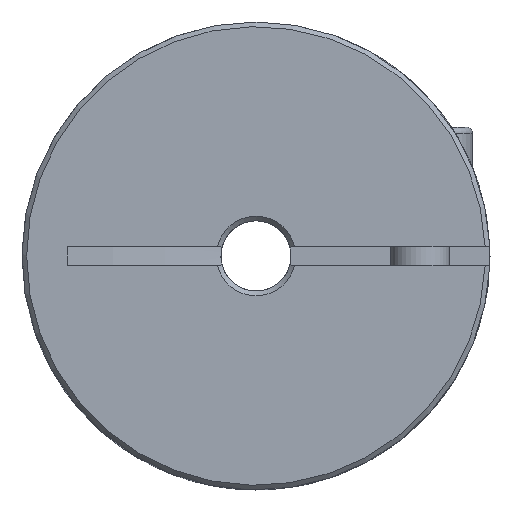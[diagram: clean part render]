
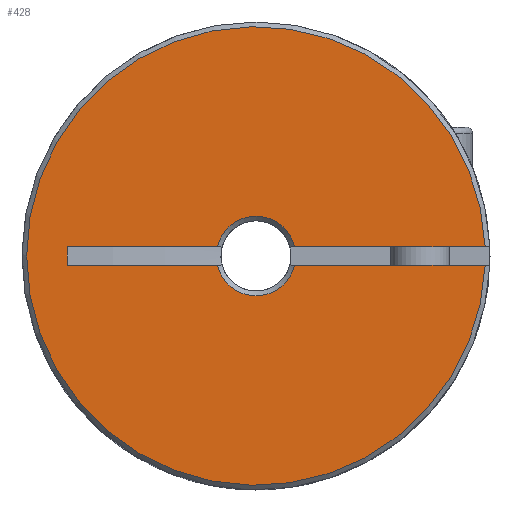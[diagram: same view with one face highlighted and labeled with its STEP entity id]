
A CAD part, left-side view. The second image highlights one B-rep face of the part: STEP entity #428.
In plain terms, the highlighted planar face has unit normal (-1, 0, 0).
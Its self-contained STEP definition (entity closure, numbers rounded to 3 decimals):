
#428 = ADVANCED_FACE( 'NONE', ( #932 ), #933, .F. );
#932 = FACE_OUTER_BOUND( '', #1469, .T. );
#933 = PLANE( '', #1470 );
#1469 = EDGE_LOOP( '', ( #2247, #2248, #2249, #2250, #2251, #2252, #2253, #2254 ) );
#1470 = AXIS2_PLACEMENT_3D( '', #2255, #2256, #2257 );
#2247 = ORIENTED_EDGE( '', *, *, #2767, .T. );
#2248 = ORIENTED_EDGE( '', *, *, #2768, .T. );
#2249 = ORIENTED_EDGE( '', *, *, #2640, .T. );
#2250 = ORIENTED_EDGE( '', *, *, #2544, .T. );
#2251 = ORIENTED_EDGE( '', *, *, #2769, .F. );
#2252 = ORIENTED_EDGE( '', *, *, #2636, .T. );
#2253 = ORIENTED_EDGE( '', *, *, #2550, .F. );
#2254 = ORIENTED_EDGE( '', *, *, #2736, .T. );
#2255 = CARTESIAN_POINT( '', ( 0., 1.5, 0. ) );
#2256 = DIRECTION( '', ( 1., 0., 0. ) );
#2257 = DIRECTION( '', ( 0., 1., 0. ) );
#2544 = EDGE_CURVE( 'NONE', #2895, #2893, #2896, .F. );
#2550 = EDGE_CURVE( 'NONE', #2904, #2905, #2906, .F. );
#2636 = EDGE_CURVE( 'NONE', #3034, #2905, #3035, .T. );
#2640 = EDGE_CURVE( 'NONE', #3040, #2895, #3041, .T. );
#2736 = EDGE_CURVE( 'NONE', #2904, #3173, #3175, .T. );
#2767 = EDGE_CURVE( 'NONE', #3173, #3215, #3216, .T. );
#2768 = EDGE_CURVE( 'NONE', #3215, #3040, #3217, .T. );
#2769 = EDGE_CURVE( 'NONE', #3034, #2893, #3218, .F. );
#2893 = VERTEX_POINT( 'NONE', #3355 );
#2895 = VERTEX_POINT( 'NONE', #3360 );
#2896 = CIRCLE( '', #3361, 9.8 );
#2904 = VERTEX_POINT( 'NONE', #3372 );
#2905 = VERTEX_POINT( 'NONE', #3373 );
#2906 = LINE( '', #3374, #3375 );
#3034 = VERTEX_POINT( 'NONE', #3509 );
#3035 = CIRCLE( '', #3510, 1.7 );
#3040 = VERTEX_POINT( 'NONE', #3518 );
#3041 = LINE( '', #3519, #3520 );
#3173 = VERTEX_POINT( 'NONE', #3775 );
#3175 = LINE( '', #3777, #3778 );
#3215 = VERTEX_POINT( 'NONE', #3819 );
#3216 = LINE( '', #3820, #3821 );
#3217 = CIRCLE( '', #3822, 1.7 );
#3218 = LINE( '', #3823, #3824 );
#3355 = CARTESIAN_POINT( '', ( 0., -9.792, -0.4 ) );
#3360 = CARTESIAN_POINT( '', ( 0., -9.792, 0.4 ) );
#3361 = AXIS2_PLACEMENT_3D( '', #3962, #3963, #3964 );
#3372 = CARTESIAN_POINT( '', ( 0., 8.073, -0.4 ) );
#3373 = CARTESIAN_POINT( '', ( 0., 1.652, -0.4 ) );
#3374 = CARTESIAN_POINT( '', ( 0., -4., -0.4 ) );
#3375 = VECTOR( '', #3971, 1000. );
#3509 = CARTESIAN_POINT( '', ( 0., -1.652, -0.4 ) );
#3510 = AXIS2_PLACEMENT_3D( '', #4110, #4111, #4112 );
#3518 = CARTESIAN_POINT( '', ( 0., -1.652, 0.4 ) );
#3519 = CARTESIAN_POINT( '', ( 0., 1.5, 0.4 ) );
#3520 = VECTOR( '', #4116, 1000. );
#3775 = CARTESIAN_POINT( '', ( 0., 8.073, 0.4 ) );
#3777 = CARTESIAN_POINT( '', ( 0., 8.073, -0.4 ) );
#3778 = VECTOR( '', #4240, 1000. );
#3819 = CARTESIAN_POINT( '', ( 0., 1.652, 0.4 ) );
#3820 = CARTESIAN_POINT( '', ( 0., 1.5, 0.4 ) );
#3821 = VECTOR( '', #4275, 1000. );
#3822 = AXIS2_PLACEMENT_3D( '', #4276, #4277, #4278 );
#3823 = CARTESIAN_POINT( '', ( 0., -4., -0.4 ) );
#3824 = VECTOR( '', #4279, 1000. );
#3962 = CARTESIAN_POINT( '', ( 0., 0., 0. ) );
#3963 = DIRECTION( '', ( 1., 0., 0. ) );
#3964 = DIRECTION( '', ( 0., 0., -1. ) );
#3971 = DIRECTION( '', ( 0., 1., 0. ) );
#4110 = CARTESIAN_POINT( '', ( 0., 0., 0. ) );
#4111 = DIRECTION( '', ( 1., 0., 0. ) );
#4112 = DIRECTION( '', ( 0., 0., -1. ) );
#4116 = DIRECTION( '', ( 0., -1., 0. ) );
#4240 = DIRECTION( '', ( 0., 0., 1. ) );
#4275 = DIRECTION( '', ( 0., -1., 0. ) );
#4276 = CARTESIAN_POINT( '', ( 0., 0., 0. ) );
#4277 = DIRECTION( '', ( 1., 0., 0. ) );
#4278 = DIRECTION( '', ( 0., 0., -1. ) );
#4279 = DIRECTION( '', ( 0., 1., 0. ) );
